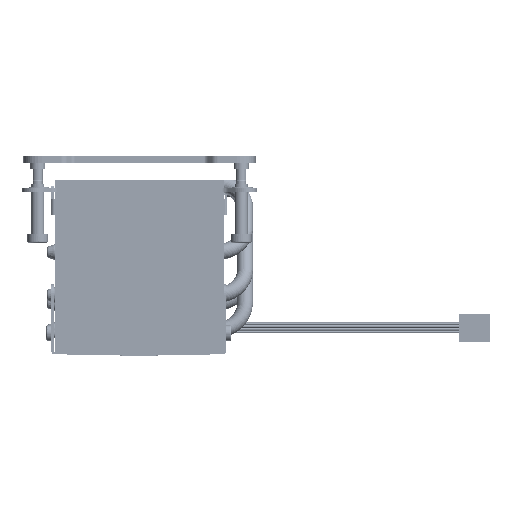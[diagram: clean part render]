
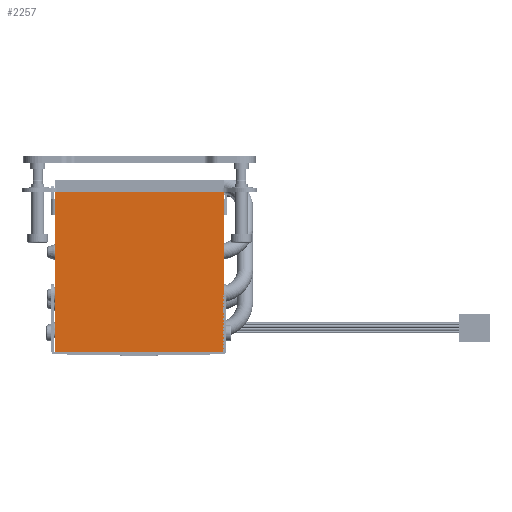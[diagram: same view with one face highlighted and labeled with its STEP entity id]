
A CAD part, left-side view. The second image highlights one B-rep face of the part: STEP entity #2257.
In plain terms, the highlighted planar face has unit normal (-1, 0, 0).
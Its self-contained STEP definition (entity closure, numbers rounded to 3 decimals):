
#170=DIRECTION('',(0.,0.,-1.));
#171=VECTOR('',#170,61.2);
#172=CARTESIAN_POINT('',(0.,32.5,3.));
#173=LINE('',#172,#171);
#493=DIRECTION('',(0.,0.,-1.));
#494=VECTOR('',#493,61.2);
#495=CARTESIAN_POINT('',(0.,-32.5,3.));
#496=LINE('',#495,#494);
#497=DIRECTION('',(0.,1.,0.));
#498=VECTOR('',#497,65.);
#499=CARTESIAN_POINT('',(0.,-32.5,-58.2));
#500=LINE('',#499,#498);
#1046=DIRECTION('',(0.,1.,0.));
#1047=VECTOR('',#1046,65.);
#1048=CARTESIAN_POINT('',(0.,-32.5,3.));
#1049=LINE('',#1048,#1047);
#1570=CARTESIAN_POINT('',(0.,32.5,3.));
#1571=CARTESIAN_POINT('',(0.,32.5,-58.2));
#1572=VERTEX_POINT('',#1570);
#1573=VERTEX_POINT('',#1571);
#1740=CARTESIAN_POINT('',(0.,-32.5,3.));
#1741=CARTESIAN_POINT('',(0.,-32.5,-58.2));
#1742=VERTEX_POINT('',#1740);
#1743=VERTEX_POINT('',#1741);
#2243=CARTESIAN_POINT('',(0.,-33.8,-0.124));
#2244=DIRECTION('',(-1.,0.,0.));
#2245=DIRECTION('',(0.,0.,1.));
#2246=AXIS2_PLACEMENT_3D('',#2243,#2244,#2245);
#2247=PLANE('',#2246);
#2249=ORIENTED_EDGE('',*,*,#2248,.T.);
#2251=ORIENTED_EDGE('',*,*,#2250,.T.);
#2252=ORIENTED_EDGE('',*,*,#2057,.F.);
#2254=ORIENTED_EDGE('',*,*,#2253,.F.);
#2255=EDGE_LOOP('',(#2249,#2251,#2252,#2254));
#2256=FACE_OUTER_BOUND('',#2255,.F.);
#2257=ADVANCED_FACE('',(#2256),#2247,.T.);
#2057=EDGE_CURVE('',#1572,#1573,#173,.T.);
#2248=EDGE_CURVE('',#1742,#1743,#496,.T.);
#2250=EDGE_CURVE('',#1743,#1573,#500,.T.);
#2253=EDGE_CURVE('',#1742,#1572,#1049,.T.);
